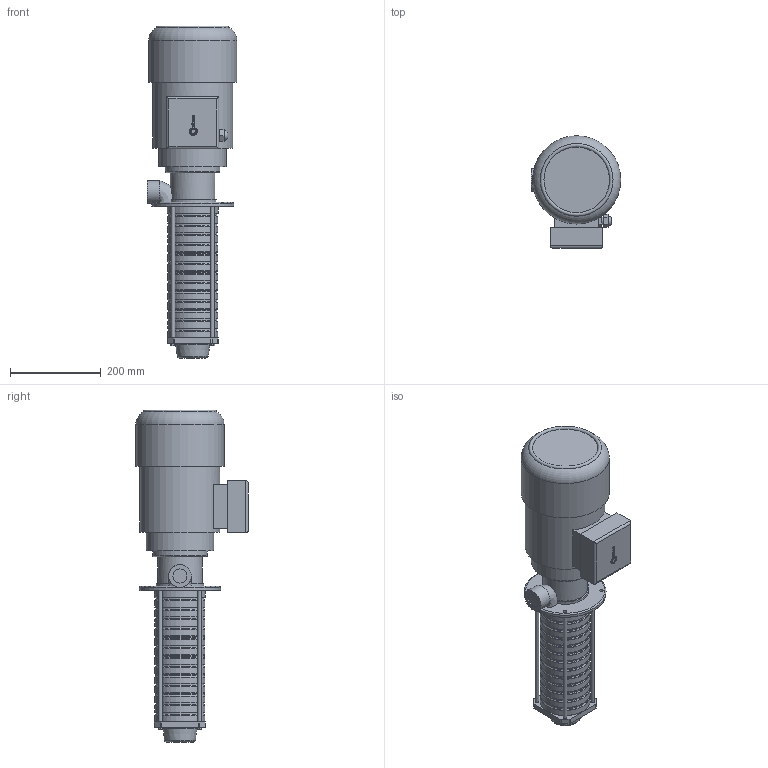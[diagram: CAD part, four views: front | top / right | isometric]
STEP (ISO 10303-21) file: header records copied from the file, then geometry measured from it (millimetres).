
FILE_DESCRIPTION(/* description */ ('Unknown'),/* implementation_level */ '2;1');
FILE_NAME(/* name */ 'hdb12',/* time_stamp */ '2025-06-17T14:59:50+03:00',/* author */ ('Unknown'),/* organization */ ('Unknown'),/* preprocessor_version */ 'ST-DEVELOPER v16.7',/* originating_system */ 'DEX',/* authorisation */ $);
FILE_SCHEMA (('AUTOMOTIVE_DESIGN {1 0 10303 214 3 1 1}'));
Length unit declared in the file: millimetre
Products named in the file (1): hdb12
Bounding box: 197 x 247 x 730.01 mm (x, y, z)
Volume: 12547775.1 mm3; surface area: 501110 mm2
Topology: 1 solids, 1 shells, 292 faces, 687 edges, 439 vertices
Faces by surface type: plane 109, cylinder 66, bspline 66, torus 34, cone 17
Full cylindrical faces by diameter (mm): 7.5 x4, 8 x4, 17 x1, 21.5 x1, 31 x1, 50 x1, 98.181 x1, 106.9 x13, 110 x13, 112 x1, 120 x1, 148.64 x1, 175.993 x1, 180 x1, 194 x1
Entity records: 10416 total; most frequent: CARTESIAN_POINT 4434, ORIENTED_EDGE 1158, DIRECTION 1063, EDGE_CURVE 579, EDGE_LOOP 446, FACE_BOUND 446, VERTEX_POINT 427, AXIS2_PLACEMENT_3D 397
